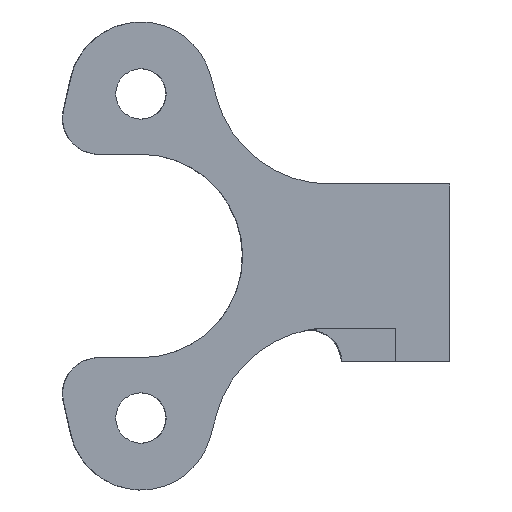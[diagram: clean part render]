
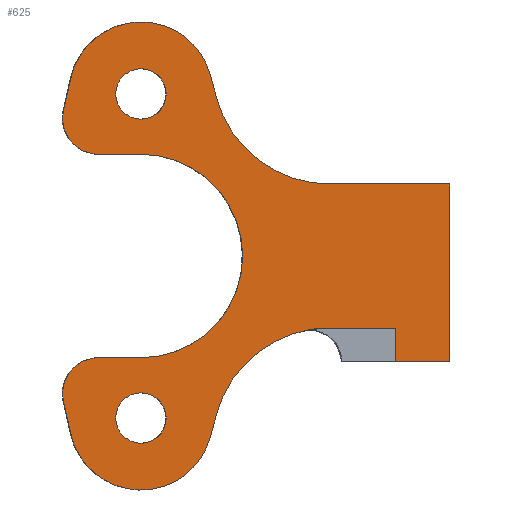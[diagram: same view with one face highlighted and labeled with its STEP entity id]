
A CAD part, front view. The second image highlights one B-rep face of the part: STEP entity #625.
In plain terms, the highlighted planar face has unit normal (0.003, -1, 0).
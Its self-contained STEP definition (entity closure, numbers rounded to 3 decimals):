
#20=FACE_BOUND('',#139,.T.);
#21=FACE_BOUND('',#140,.T.);
#35=PLANE('',#687);
#46=CIRCLE('',#662,6.5);
#59=CIRCLE('',#688,6.5);
#60=CIRCLE('',#689,4.);
#61=CIRCLE('',#690,2.);
#62=CIRCLE('',#691,5.65);
#63=CIRCLE('',#692,2.);
#64=CIRCLE('',#693,4.);
#65=CIRCLE('',#694,1.4);
#66=CIRCLE('',#695,1.4);
#100=FACE_OUTER_BOUND('',#138,.T.);
#138=EDGE_LOOP('',(#502,#503,#504,#505,#506,#507,#508,#509,#510,#511,#512,
#513,#514,#515,#516,#517,#518,#519));
#139=EDGE_LOOP('',(#520));
#140=EDGE_LOOP('',(#521));
#166=LINE('',#1029,#220);
#179=LINE('',#1085,#233);
#184=LINE('',#1126,#238);
#188=LINE('',#1137,#242);
#189=LINE('',#1141,#243);
#190=LINE('',#1145,#244);
#191=LINE('',#1149,#245);
#192=LINE('',#1153,#246);
#193=LINE('',#1157,#247);
#194=LINE('',#1160,#248);
#195=LINE('',#1161,#249);
#220=VECTOR('',#736,10.);
#233=VECTOR('',#775,10.);
#238=VECTOR('',#794,10.);
#242=VECTOR('',#804,10.);
#243=VECTOR('',#807,10.);
#244=VECTOR('',#810,10.);
#245=VECTOR('',#813,10.);
#246=VECTOR('',#816,10.);
#247=VECTOR('',#819,10.);
#248=VECTOR('',#822,10.);
#249=VECTOR('',#823,10.);
#280=VERTEX_POINT('',#1008);
#281=VERTEX_POINT('',#1010);
#284=VERTEX_POINT('',#1027);
#305=VERTEX_POINT('',#1084);
#311=VERTEX_POINT('',#1124);
#312=VERTEX_POINT('',#1125);
#316=VERTEX_POINT('',#1136);
#317=VERTEX_POINT('',#1138);
#318=VERTEX_POINT('',#1140);
#319=VERTEX_POINT('',#1142);
#320=VERTEX_POINT('',#1144);
#321=VERTEX_POINT('',#1146);
#322=VERTEX_POINT('',#1148);
#323=VERTEX_POINT('',#1150);
#324=VERTEX_POINT('',#1152);
#325=VERTEX_POINT('',#1154);
#326=VERTEX_POINT('',#1156);
#327=VERTEX_POINT('',#1158);
#328=VERTEX_POINT('',#1162);
#329=VERTEX_POINT('',#1164);
#342=EDGE_CURVE('',#280,#281,#46,.T.);
#347=EDGE_CURVE('',#280,#284,#166,.T.);
#371=EDGE_CURVE('',#305,#284,#179,.T.);
#382=EDGE_CURVE('',#311,#312,#184,.T.);
#388=EDGE_CURVE('',#316,#311,#188,.T.);
#389=EDGE_CURVE('',#317,#316,#59,.T.);
#390=EDGE_CURVE('',#317,#318,#189,.T.);
#391=EDGE_CURVE('',#318,#319,#60,.T.);
#392=EDGE_CURVE('',#319,#320,#190,.T.);
#393=EDGE_CURVE('',#320,#321,#61,.T.);
#394=EDGE_CURVE('',#321,#322,#191,.T.);
#395=EDGE_CURVE('',#322,#323,#62,.T.);
#396=EDGE_CURVE('',#323,#324,#192,.T.);
#397=EDGE_CURVE('',#324,#325,#63,.T.);
#398=EDGE_CURVE('',#325,#326,#193,.T.);
#399=EDGE_CURVE('',#326,#327,#64,.T.);
#400=EDGE_CURVE('',#327,#281,#194,.T.);
#401=EDGE_CURVE('',#312,#305,#195,.T.);
#402=EDGE_CURVE('',#328,#328,#65,.T.);
#403=EDGE_CURVE('',#329,#329,#66,.T.);
#502=ORIENTED_EDGE('',*,*,#382,.F.);
#503=ORIENTED_EDGE('',*,*,#388,.F.);
#504=ORIENTED_EDGE('',*,*,#389,.F.);
#505=ORIENTED_EDGE('',*,*,#390,.T.);
#506=ORIENTED_EDGE('',*,*,#391,.T.);
#507=ORIENTED_EDGE('',*,*,#392,.T.);
#508=ORIENTED_EDGE('',*,*,#393,.T.);
#509=ORIENTED_EDGE('',*,*,#394,.T.);
#510=ORIENTED_EDGE('',*,*,#395,.T.);
#511=ORIENTED_EDGE('',*,*,#396,.T.);
#512=ORIENTED_EDGE('',*,*,#397,.T.);
#513=ORIENTED_EDGE('',*,*,#398,.T.);
#514=ORIENTED_EDGE('',*,*,#399,.T.);
#515=ORIENTED_EDGE('',*,*,#400,.T.);
#516=ORIENTED_EDGE('',*,*,#342,.F.);
#517=ORIENTED_EDGE('',*,*,#347,.T.);
#518=ORIENTED_EDGE('',*,*,#371,.F.);
#519=ORIENTED_EDGE('',*,*,#401,.F.);
#520=ORIENTED_EDGE('',*,*,#402,.T.);
#521=ORIENTED_EDGE('',*,*,#403,.T.);
#625=ADVANCED_FACE('',(#100,#20,#21),#35,.T.);
#662=AXIS2_PLACEMENT_3D('',#1011,#728,#729);
#687=AXIS2_PLACEMENT_3D('',#1135,#802,#803);
#688=AXIS2_PLACEMENT_3D('',#1139,#805,#806);
#689=AXIS2_PLACEMENT_3D('',#1143,#808,#809);
#690=AXIS2_PLACEMENT_3D('',#1147,#811,#812);
#691=AXIS2_PLACEMENT_3D('',#1151,#814,#815);
#692=AXIS2_PLACEMENT_3D('',#1155,#817,#818);
#693=AXIS2_PLACEMENT_3D('',#1159,#820,#821);
#694=AXIS2_PLACEMENT_3D('',#1163,#824,#825);
#695=AXIS2_PLACEMENT_3D('',#1165,#826,#827);
#728=DIRECTION('center_axis',(0.003,-1.,0.));
#729=DIRECTION('ref_axis',(-0.609,-0.002,0.793));
#736=DIRECTION('',(1.,0.003,0.));
#775=DIRECTION('',(0.,0.,1.));
#794=DIRECTION('',(0.,0.,-1.));
#802=DIRECTION('center_axis',(0.003,-1.,0.));
#803=DIRECTION('ref_axis',(0.,0.,-1.));
#804=DIRECTION('',(1.,0.003,0.));
#805=DIRECTION('center_axis',(0.003,-1.,0.));
#806=DIRECTION('ref_axis',(-0.609,-0.002,-0.793));
#807=DIRECTION('',(-0.259,-0.001,0.966));
#808=DIRECTION('center_axis',(0.003,-1.,0.));
#809=DIRECTION('ref_axis',(0.,0.,
1.));
#810=DIRECTION('',(-0.217,-0.001,-0.976));
#811=DIRECTION('center_axis',(0.003,-1.,0.));
#812=DIRECTION('ref_axis',(0.,0.,-1.));
#813=DIRECTION('',(1.,0.003,0.));
#814=DIRECTION('center_axis',(-0.003,1.,0.));
#815=DIRECTION('ref_axis',(0.,0.,
1.));
#816=DIRECTION('',(-1.,-0.003,0.));
#817=DIRECTION('center_axis',(0.003,-1.,0.));
#818=DIRECTION('ref_axis',(-0.976,-0.003,-0.217));
#819=DIRECTION('',(0.217,0.001,-0.976));
#820=DIRECTION('center_axis',(0.003,-1.,0.));
#821=DIRECTION('ref_axis',(0.,0.,
1.));
#822=DIRECTION('',(0.259,0.001,0.966));
#823=DIRECTION('',(-1.,-0.003,0.));
#824=DIRECTION('center_axis',(-0.003,1.,0.));
#825=DIRECTION('ref_axis',(0.,0.,
1.));
#826=DIRECTION('center_axis',(-0.003,1.,0.));
#827=DIRECTION('ref_axis',(0.,0.,
1.));
#1008=CARTESIAN_POINT('',(-29.437,-23.842,49.137));
#1010=CARTESIAN_POINT('',(-35.715,-23.862,44.32));
#1011=CARTESIAN_POINT('Origin',(-29.437,-23.842,42.637));
#1027=CARTESIAN_POINT('',(-25.758,-23.83,49.137));
#1029=CARTESIAN_POINT('',(-36.631,-23.865,49.137));
#1084=CARTESIAN_POINT('',(-25.758,-23.83,47.276));
#1085=CARTESIAN_POINT('',(-25.758,-23.83,50.));
#1124=CARTESIAN_POINT('',(-22.758,-23.821,57.137));
#1125=CARTESIAN_POINT('',(-22.758,-23.821,47.276));
#1126=CARTESIAN_POINT('',(-22.758,-23.821,50.));
#1135=CARTESIAN_POINT('Origin',(-38.839,-23.873,53.137));
#1136=CARTESIAN_POINT('',(-29.437,-23.842,57.137));
#1137=CARTESIAN_POINT('',(-33.424,-23.855,57.137));
#1138=CARTESIAN_POINT('',(-35.715,-23.862,61.953));
#1139=CARTESIAN_POINT('Origin',(-29.437,-23.842,63.637));
#1140=CARTESIAN_POINT('',(-36.042,-23.864,63.172));
#1141=CARTESIAN_POINT('',(-34.072,-23.857,55.823));
#1142=CARTESIAN_POINT('',(-43.811,-23.889,63.004));
#1143=CARTESIAN_POINT('Origin',(-39.906,-23.876,62.137));
#1144=CARTESIAN_POINT('',(-44.207,-23.89,61.22));
#1145=CARTESIAN_POINT('',(-44.738,-23.892,58.828));
#1146=CARTESIAN_POINT('',(-42.254,-23.884,58.787));
#1147=CARTESIAN_POINT('Origin',(-42.254,-23.884,60.787));
#1148=CARTESIAN_POINT('',(-39.906,-23.876,58.787));
#1149=CARTESIAN_POINT('',(-40.547,-23.878,58.787));
#1150=CARTESIAN_POINT('',(-39.906,-23.876,47.487));
#1151=CARTESIAN_POINT('Origin',(-39.906,-23.876,53.137));
#1152=CARTESIAN_POINT('',(-42.254,-23.884,47.487));
#1153=CARTESIAN_POINT('',(-39.372,-23.874,47.487));
#1154=CARTESIAN_POINT('',(-44.207,-23.89,45.053));
#1155=CARTESIAN_POINT('Origin',(-42.254,-23.884,45.487));
#1156=CARTESIAN_POINT('',(-43.811,-23.889,43.269));
#1157=CARTESIAN_POINT('',(-44.936,-23.892,48.337));
#1158=CARTESIAN_POINT('',(-36.042,-23.864,43.101));
#1159=CARTESIAN_POINT('Origin',(-39.906,-23.876,44.137));
#1160=CARTESIAN_POINT('',(-34.881,-23.86,47.432));
#1161=CARTESIAN_POINT('',(-23.475,-23.823,47.276));
#1162=CARTESIAN_POINT('',(-39.906,-23.876,42.737));
#1163=CARTESIAN_POINT('Origin',(-39.906,-23.876,44.137));
#1164=CARTESIAN_POINT('',(-39.906,-23.876,60.737));
#1165=CARTESIAN_POINT('Origin',(-39.906,-23.876,62.137));
